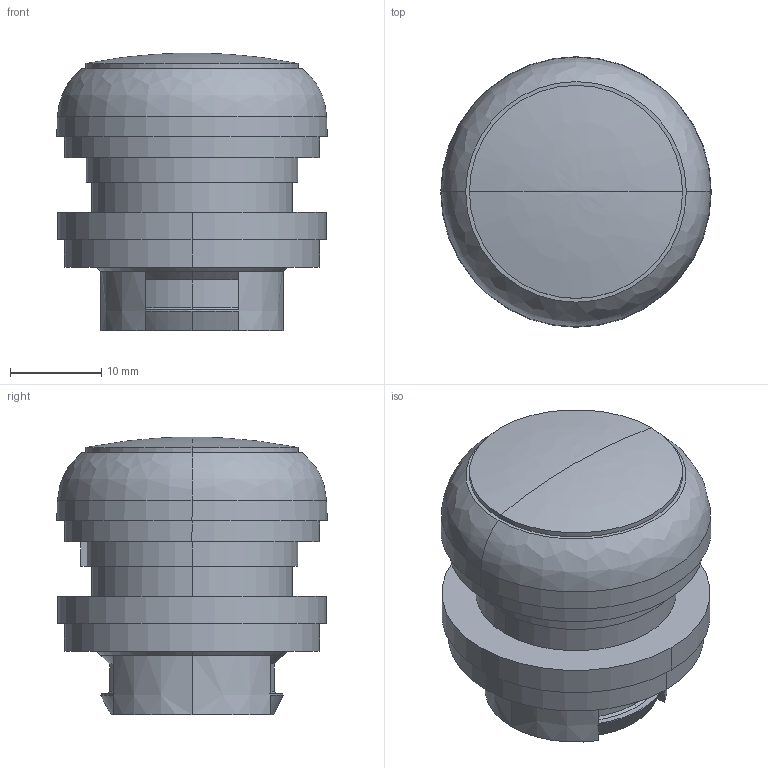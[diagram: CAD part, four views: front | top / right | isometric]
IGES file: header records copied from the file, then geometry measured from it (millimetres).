
Start section: Data from XPlus IGES,  Spatial Corp. Copyright (c) 1999-2004
Global section: file name: 216771.igs; native system:  By Spatial Corp.; preprocessor: XPlus ACIS/IGES 3.0; author: Noname; organization: Noname; date: 20120615.170735; units: millimetre
Bounding box: 29.7 x 29.7 x 30.5 mm (x, y, z)
Surface area: 4195.7 mm2 (no closed solid volume)
Topology: 0 solids, 0 shells, 66 faces, 316 edges, 314 vertices
Faces by surface type: revolution 41, extrusion 25
